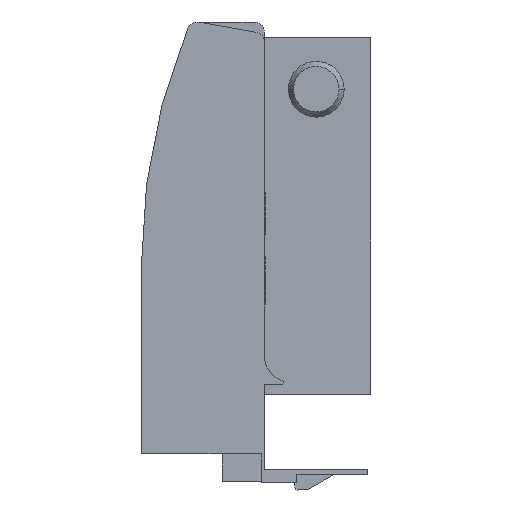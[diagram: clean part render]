
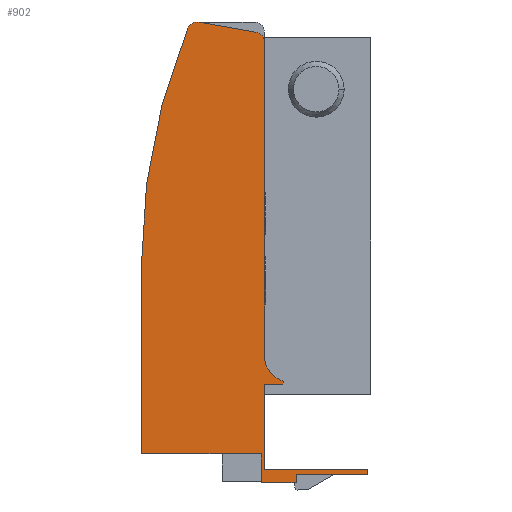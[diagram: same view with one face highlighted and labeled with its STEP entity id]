
A CAD part, front view. The second image highlights one B-rep face of the part: STEP entity #902.
In plain terms, the highlighted planar face has unit normal (0, -1, 0).
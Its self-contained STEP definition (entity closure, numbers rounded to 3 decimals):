
#7 = ORIENTED_EDGE ( 'NONE', *, *, #953, .F. ) ;
#49 = ORIENTED_EDGE ( 'NONE', *, *, #1048, .F. ) ;
#133 = ORIENTED_EDGE ( 'NONE', *, *, #934, .F. ) ;
#201 = FACE_OUTER_BOUND ( 'NONE', #378, .T. ) ;
#220 = ORIENTED_EDGE ( 'NONE', *, *, #1051, .F. ) ;
#262 = ORIENTED_EDGE ( 'NONE', *, *, #1047, .F. ) ;
#263 = ORIENTED_EDGE ( 'NONE', *, *, #929, .F. ) ;
#265 = ORIENTED_EDGE ( 'NONE', *, *, #973, .F. ) ;
#266 = ORIENTED_EDGE ( 'NONE', *, *, #946, .F. ) ;
#267 = ORIENTED_EDGE ( 'NONE', *, *, #1049, .F. ) ;
#268 = ORIENTED_EDGE ( 'NONE', *, *, #1050, .F. ) ;
#269 = ORIENTED_EDGE ( 'NONE', *, *, #944, .F. ) ;
#378 = EDGE_LOOP ( 'NONE', ( #689, #685, #680, #682, #681, #671, #262, #133, #263, #265, #266, #49, #267, #268, #7, #269, #220 ) ) ;
#416 = LINE ( 'NONE', #1885, #418 ) ;
#418 = VECTOR ( 'NONE', #1886, 1000. ) ;
#450 = LINE ( 'NONE', #1874, #703 ) ;
#469 = VECTOR ( 'NONE', #1626, 1000. ) ;
#543 = LINE ( 'NONE', #1686, #670 ) ;
#548 = LINE ( 'NONE', #1614, #797 ) ;
#556 = LINE ( 'NONE', #1883, #569 ) ;
#558 = VECTOR ( 'NONE', #1880, 1000. ) ;
#569 = VECTOR ( 'NONE', #1884, 1000. ) ;
#580 = LINE ( 'NONE', #1676, #759 ) ;
#588 = VECTOR ( 'NONE', #1882, 1000. ) ;
#596 = VECTOR ( 'NONE', #1710, 1000. ) ;
#638 = CIRCLE ( 'NONE', #1203, 2. ) ;
#650 = VECTOR ( 'NONE', #1653, 1000. ) ;
#658 = VECTOR ( 'NONE', #1649, 1000. ) ;
#670 = VECTOR ( 'NONE', #1687, 1000. ) ;
#671 = ORIENTED_EDGE ( 'NONE', *, *, #1107, .F. ) ;
#680 = ORIENTED_EDGE ( 'NONE', *, *, #957, .F. ) ;
#681 = ORIENTED_EDGE ( 'NONE', *, *, #1046, .T. ) ;
#682 = ORIENTED_EDGE ( 'NONE', *, *, #1045, .T. ) ;
#685 = ORIENTED_EDGE ( 'NONE', *, *, #965, .F. ) ;
#689 = ORIENTED_EDGE ( 'NONE', *, *, #962, .F. ) ;
#695 = LINE ( 'NONE', #1709, #596 ) ;
#703 = VECTOR ( 'NONE', #1875, 1000. ) ;
#705 = CIRCLE ( 'NONE', #1184, 5. ) ;
#711 = LINE ( 'NONE', #1879, #558 ) ;
#723 = CIRCLE ( 'NONE', #1204, 120.6 ) ;
#746 = LINE ( 'NONE', #1881, #588 ) ;
#753 = LINE ( 'NONE', #1625, #469 ) ;
#757 = LINE ( 'NONE', #1648, #658 ) ;
#759 = VECTOR ( 'NONE', #1677, 1000. ) ;
#768 = LINE ( 'NONE', #1666, #773 ) ;
#773 = VECTOR ( 'NONE', #1667, 1000. ) ;
#794 = LINE ( 'NONE', #1652, #650 ) ;
#797 = VECTOR ( 'NONE', #1615, 1000. ) ;
#846 = CIRCLE ( 'NONE', #1216, 2. ) ;
#902 = ADVANCED_FACE ( 'NONE', ( #201 ), #1516, .T. ) ;
#929 = EDGE_CURVE ( 'NONE', #1275, #1316, #548, .T. ) ;
#934 = EDGE_CURVE ( 'NONE', #1316, #1264, #753, .T. ) ;
#944 = EDGE_CURVE ( 'NONE', #1319, #1328, #757, .T. ) ;
#946 = EDGE_CURVE ( 'NONE', #1318, #1322, #794, .T. ) ;
#953 = EDGE_CURVE ( 'NONE', #1328, #1324, #768, .T. ) ;
#957 = EDGE_CURVE ( 'NONE', #1325, #1265, #580, .T. ) ;
#962 = EDGE_CURVE ( 'NONE', #1278, #1285, #543, .T. ) ;
#965 = EDGE_CURVE ( 'NONE', #1265, #1278, #705, .T. ) ;
#973 = EDGE_CURVE ( 'NONE', #1322, #1275, #695, .T. ) ;
#1045 = EDGE_CURVE ( 'NONE', #1325, #1302, #638, .T. ) ;
#1046 = EDGE_CURVE ( 'NONE', #1302, #1277, #450, .T. ) ;
#1047 = EDGE_CURVE ( 'NONE', #1264, #1281, #723, .T. ) ;
#1048 = EDGE_CURVE ( 'NONE', #1327, #1318, #711, .T. ) ;
#1049 = EDGE_CURVE ( 'NONE', #1320, #1327, #746, .T. ) ;
#1050 = EDGE_CURVE ( 'NONE', #1324, #1320, #556, .T. ) ;
#1051 = EDGE_CURVE ( 'NONE', #1285, #1319, #416, .T. ) ;
#1107 = EDGE_CURVE ( 'NONE', #1281, #1277, #846, .T. ) ;
#1152 = AXIS2_PLACEMENT_3D ( 'NONE', #1517, #1518, #1519 ) ;
#1184 = AXIS2_PLACEMENT_3D ( 'NONE', #1692, #1693, #1694 ) ;
#1203 = AXIS2_PLACEMENT_3D ( 'NONE', #1871, #1872, #1873 ) ;
#1204 = AXIS2_PLACEMENT_3D ( 'NONE', #1876, #1877, #1878 ) ;
#1216 = AXIS2_PLACEMENT_3D ( 'NONE', #2017, #2018, #2019 ) ;
#1264 = VERTEX_POINT ( 'NONE', #2063 ) ;
#1265 = VERTEX_POINT ( 'NONE', #2064 ) ;
#1275 = VERTEX_POINT ( 'NONE', #2074 ) ;
#1277 = VERTEX_POINT ( 'NONE', #2076 ) ;
#1278 = VERTEX_POINT ( 'NONE', #2077 ) ;
#1281 = VERTEX_POINT ( 'NONE', #2080 ) ;
#1285 = VERTEX_POINT ( 'NONE', #2084 ) ;
#1302 = VERTEX_POINT ( 'NONE', #2101 ) ;
#1316 = VERTEX_POINT ( 'NONE', #2115 ) ;
#1318 = VERTEX_POINT ( 'NONE', #2117 ) ;
#1319 = VERTEX_POINT ( 'NONE', #2118 ) ;
#1320 = VERTEX_POINT ( 'NONE', #2119 ) ;
#1322 = VERTEX_POINT ( 'NONE', #2121 ) ;
#1324 = VERTEX_POINT ( 'NONE', #2123 ) ;
#1325 = VERTEX_POINT ( 'NONE', #2124 ) ;
#1327 = VERTEX_POINT ( 'NONE', #2126 ) ;
#1328 = VERTEX_POINT ( 'NONE', #2127 ) ;
#1516 = PLANE ( 'NONE',  #1152 ) ;
#1517 = CARTESIAN_POINT ( 'NONE',  ( 4.5, 0., 34.728 ) ) ;
#1518 = DIRECTION ( 'NONE',  ( 0., -1., 0. ) ) ;
#1519 = DIRECTION ( 'NONE',  ( -1., 0., 0. ) ) ;
#1614 = CARTESIAN_POINT ( 'NONE',  ( 21.5, 0., -13.5 ) ) ;
#1615 = DIRECTION ( 'NONE',  ( -1., 0., 0. ) ) ;
#1625 = CARTESIAN_POINT ( 'NONE',  ( -2.3, 0., -13.5 ) ) ;
#1626 = DIRECTION ( 'NONE',  ( 0., 0., 1. ) ) ;
#1648 = CARTESIAN_POINT ( 'NONE',  ( 21.5, 0., 0. ) ) ;
#1649 = DIRECTION ( 'NONE',  ( 0., 0., -1. ) ) ;
#1652 = CARTESIAN_POINT ( 'NONE',  ( 27.599, 0., -19.1 ) ) ;
#1653 = DIRECTION ( 'NONE',  ( -1., 0., 0. ) ) ;
#1666 = CARTESIAN_POINT ( 'NONE',  ( 21.5, 0., -16.5 ) ) ;
#1667 = DIRECTION ( 'NONE',  ( 1., 0., 0. ) ) ;
#1676 = CARTESIAN_POINT ( 'NONE',  ( 21.5, 0., 68. ) ) ;
#1677 = DIRECTION ( 'NONE',  ( 0., 0., -1. ) ) ;
#1686 = CARTESIAN_POINT ( 'NONE',  ( 25.161, 0., 0.578 ) ) ;
#1687 = DIRECTION ( 'NONE',  ( -0.268, 0., -0.963 ) ) ;
#1692 = CARTESIAN_POINT ( 'NONE',  ( 26.5, 0., 5.395 ) ) ;
#1693 = DIRECTION ( 'NONE',  ( 0., -1., 0. ) ) ;
#1694 = DIRECTION ( 'NONE',  ( -1., 0., 0. ) ) ;
#1709 = CARTESIAN_POINT ( 'NONE',  ( 20.9, 0., -19.1 ) ) ;
#1710 = DIRECTION ( 'NONE',  ( 0., 0., 1. ) ) ;
#1871 = CARTESIAN_POINT ( 'NONE',  ( 19.5, 0., 66.06 ) ) ;
#1872 = DIRECTION ( 'NONE',  ( 0., -1., 0. ) ) ;
#1873 = DIRECTION ( 'NONE',  ( -1., 0., 0. ) ) ;
#1874 = CARTESIAN_POINT ( 'NONE',  ( 8.847, 0., 69.97 ) ) ;
#1875 = DIRECTION ( 'NONE',  ( -0.985, 0., 0.174 ) ) ;
#1876 = CARTESIAN_POINT ( 'NONE',  ( 118.3, 0., 23.168 ) ) ;
#1877 = DIRECTION ( 'NONE',  ( 0., 1., 0. ) ) ;
#1878 = DIRECTION ( 'NONE',  ( -1., 0., 0. ) ) ;
#1879 = CARTESIAN_POINT ( 'NONE',  ( 27.599, 0., -17.528 ) ) ;
#1880 = DIRECTION ( 'NONE',  ( 0., 0., -1. ) ) ;
#1881 = CARTESIAN_POINT ( 'NONE',  ( 41.499, 0., -17.528 ) ) ;
#1882 = DIRECTION ( 'NONE',  ( -1., 0., 0. ) ) ;
#1883 = CARTESIAN_POINT ( 'NONE',  ( 41.499, 0., -16.5 ) ) ;
#1884 = DIRECTION ( 'NONE',  ( 0., 0., -1. ) ) ;
#1885 = CARTESIAN_POINT ( 'NONE',  ( 25., 0., 0. ) ) ;
#1886 = DIRECTION ( 'NONE',  ( -1., 0., 0. ) ) ;
#2017 = CARTESIAN_POINT ( 'NONE',  ( 8.5, 0., 68. ) ) ;
#2018 = DIRECTION ( 'NONE',  ( 0., 1., 0. ) ) ;
#2019 = DIRECTION ( 'NONE',  ( -1., 0., 0. ) ) ;
#2063 = CARTESIAN_POINT ( 'NONE',  ( -2.3, 0., 23.168 ) ) ;
#2064 = CARTESIAN_POINT ( 'NONE',  ( 21.5, 0., 5.395 ) ) ;
#2074 = CARTESIAN_POINT ( 'NONE',  ( 20.9, 0., -13.5 ) ) ;
#2076 = CARTESIAN_POINT ( 'NONE',  ( 8.847, 0., 69.97 ) ) ;
#2077 = CARTESIAN_POINT ( 'NONE',  ( 25.161, 0., 0.578 ) ) ;
#2080 = CARTESIAN_POINT ( 'NONE',  ( 6.648, 0., 68.756 ) ) ;
#2084 = CARTESIAN_POINT ( 'NONE',  ( 25., 0., 0. ) ) ;
#2101 = CARTESIAN_POINT ( 'NONE',  ( 19.847, 0., 68.03 ) ) ;
#2115 = CARTESIAN_POINT ( 'NONE',  ( -2.3, 0., -13.5 ) ) ;
#2117 = CARTESIAN_POINT ( 'NONE',  ( 27.599, 0., -19.1 ) ) ;
#2118 = CARTESIAN_POINT ( 'NONE',  ( 21.5, 0., 0. ) ) ;
#2119 = CARTESIAN_POINT ( 'NONE',  ( 41.499, 0., -17.528 ) ) ;
#2121 = CARTESIAN_POINT ( 'NONE',  ( 20.9, 0., -19.1 ) ) ;
#2123 = CARTESIAN_POINT ( 'NONE',  ( 41.499, 0., -16.5 ) ) ;
#2124 = CARTESIAN_POINT ( 'NONE',  ( 21.5, 0., 66.06 ) ) ;
#2126 = CARTESIAN_POINT ( 'NONE',  ( 27.599, 0., -17.528 ) ) ;
#2127 = CARTESIAN_POINT ( 'NONE',  ( 21.5, 0., -16.5 ) ) ;
